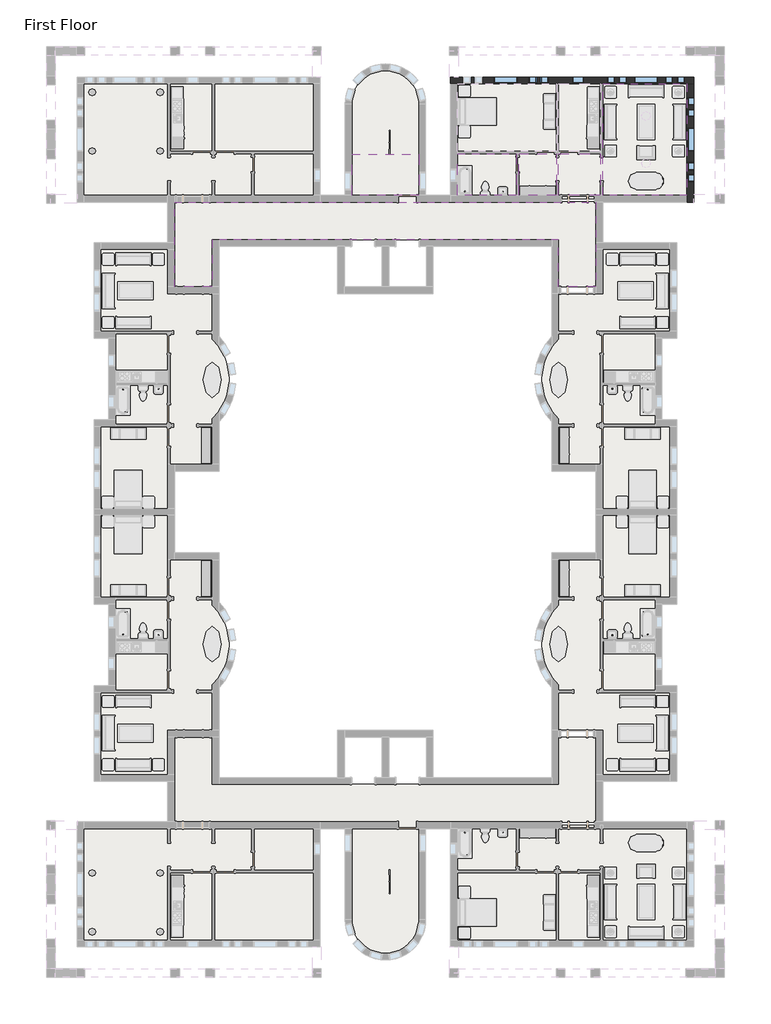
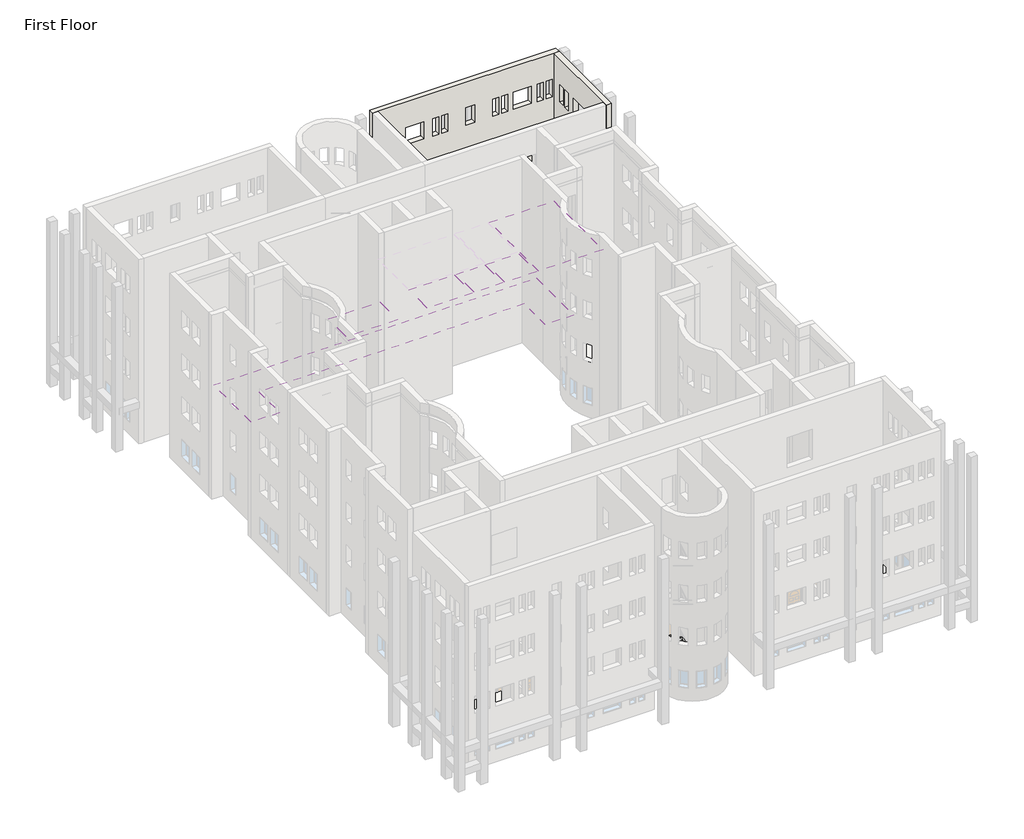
# One storey, part 18 of 24: 14 windows, 10 slabs, 6 coverings, 2 walls.
"""IFC4 building model written with IfcOpenShell, lengths in millimetres."""

from ifc_helpers import new_model, si_unit, point, frame, frame_2d, origin, place, context, project, spatial, polyline, circle_curve, trimmed, segment, composite_curve, outline, extrude, faceted_brep, transform, mapped, element, save
from components import window_da97879f, window_d61ef850, window_60baf983, window_6eb97611

model = new_model("IFC4")

# Units and contexts
model_context = context("Model", 3, world=origin())
ifc_project = project(units=[si_unit("LENGTHUNIT", "METRE", prefix="MILLI")], contexts=[model_context])

# Site, building, storey
site = spatial("IfcSite", under=ifc_project)
building = spatial("IfcBuilding", under=site)
storey = spatial("IfcBuildingStorey", under=building, Name="First Floor", Elevation=0.0)

# Coverings
placement = place(None, origin())
element("IfcCovering", 1, ObjectType="GWB on Mtl. Stud", at=placement, inside=storey, context=model_context, shape_type="SweptSolid", body=[
    extrude(outline(polyline([(-3709.9589563, 4526.4441867), (-3709.9589563, 10270.0191867), (622.3285437, 10270.0191867), (622.3285437, 4526.4441867), (-3709.9589563, 4526.4441867)])), frame((0.0, 0.0, 2590.8), z_axis=(0.0, 0.0, 1.0), x_axis=(1.0, 0.0, 0.0)), (0.0, 0.0, 1.0), 107.95),
])
element("IfcCovering", 2, ObjectType="GWB on Mtl. Stud", at=placement, inside=storey, context=model_context, shape_type="SweptSolid", body=[
    extrude(outline(polyline([(-3836.9589563, 4526.4441867), (-5995.9589563, 4526.4441867), (-5995.9589563, 6660.0441867), (-3836.9589563, 6660.0441867), (-3836.9589563, 4526.4441867)])), frame((0.0, 0.0, 2590.8), z_axis=(0.0, 0.0, 1.0), x_axis=(1.0, 0.0, 0.0)), (0.0, 0.0, 1.0), 107.95),
])
element("IfcCovering", 3, ObjectType="GWB on Mtl. Stud", at=placement, inside=storey, context=model_context, shape_type="SweptSolid", body=[
    extrude(outline(polyline([(-6122.9589563, 4526.4441867), (-8042.2464563, 4526.4441867), (-8042.2464563, 6660.0441867), (-6122.9589563, 6660.0441867), (-6122.9589563, 4526.4441867)])), frame((0.0, 0.0, 2590.8), z_axis=(0.0, 0.0, 1.0), x_axis=(1.0, 0.0, 0.0)), (0.0, 0.0, 1.0), 107.95),
])
element("IfcCovering", 4, ObjectType="GWB on Mtl. Stud", at=placement, inside=storey, context=model_context, shape_type="SweptSolid", body=[
    extrude(outline(polyline([(-8169.2464563, 6660.0441867), (-8169.2464563, 4526.4441867), (-11217.2464563, 4526.4441867), (-11217.2464563, 6660.0441867), (-8169.2464563, 6660.0441867)])), frame((0.0, 0.0, 2590.8), z_axis=(0.0, 0.0, 1.0), x_axis=(1.0, 0.0, 0.0)), (0.0, 0.0, 1.0), 107.95),
])
element("IfcCovering", 5, ObjectType="GWB on Mtl. Stud", at=placement, inside=storey, context=model_context, shape_type="SweptSolid", body=[
    extrude(outline(polyline([(-13206.3839563, 4526.4441867), (-16663.9589563, 4526.4441867), (-16663.9589563, 6636.2316867), (-13206.3839563, 6636.2316867), (-13206.3839563, 4526.4441867)])), frame((0.0, 0.0, 2438.4), z_axis=(0.0, 0.0, 1.0), x_axis=(1.0, 0.0, 0.0)), (0.0, 0.0, 1.0), 107.95),
])
element("IfcCovering", 6, ObjectType="GWB on Mtl. Stud", at=placement, inside=storey, context=model_context, shape_type="SweptSolid", body=[
    extrude(outline(polyline([(-5995.9589563, -197.9558133), (-5995.9589563, 2240.4441867), (-23874.3839563, 2240.4441867), (-23874.3839563, -197.9558133), (-25807.9589563, -197.9558133), (-25807.9589563, 4174.0191867), (-4062.3839563, 4174.0191867), (-4062.3839563, -197.9558133), (-5995.9589563, -197.9558133)])), frame((0.0, 0.0, 2438.4), z_axis=(0.0, 0.0, 1.0), x_axis=(1.0, 0.0, 0.0)), (0.0, 0.0, 1.0), 107.95),
])

# Slabs
element("IfcSlab", 7, ObjectType="LW Concrete on Metal Deck", at=placement, inside=storey, context=model_context, shape_type="SweptSolid", body=[
    extrude(outline(polyline([(787.4285437, 10435.1191867), (787.4285437, 4361.3441867), (-11382.3464563, 4361.3441867), (-11382.3464563, 10435.1191867), (787.4285437, 10435.1191867)])), frame((0.0, 0.0, -104.775), z_axis=(0.0, 0.0, 1.0), x_axis=(1.0, 0.0, 0.0)), (0.0, 0.0, 1.0), 104.775),
])
element("IfcSlab", 8, ObjectType="LW Concrete on Metal Deck", at=placement, inside=storey, context=model_context, shape_type="SweptSolid", body=[
    extrude(outline(composite_curve([segment(polyline([(-13193.6839563, 9227.0316867), (-13193.6839563, 4186.7191867), (-4062.3839563, 4186.7191867), (-4062.3839563, -197.9558133), (-6008.6589563, -197.9558133), (-6008.6589563, 2227.7441867), (-23861.6839563, 2227.7441867), (-23861.6839563, -197.9558133), (-25807.9589563, -197.9558133), (-25807.9589563, 4186.7191867), (-16676.6589563, 4186.7191867), (-16676.6589563, 9227.0316867)]), True, "CONTINUOUS"), segment(trimmed(circle_curve(frame_2d((-14935.1714563, 9227.0316867)), 1741.4875), [point((-16676.6589563, 9227.0316867))], [point((-13193.6839563, 9227.0316867))], False, "CARTESIAN"), True, "CONTINUOUS")], self_intersect=False)), frame((0.0, 0.0, -104.775), z_axis=(0.0, 0.0, 1.0), x_axis=(1.0, 0.0, 0.0)), (0.0, 0.0, 1.0), 104.775),
])
element("IfcSlab", 9, ObjectType="LW Concrete on Metal Deck", at=placement, inside=storey, context=model_context, shape_type="SweptSolid", body=[
    extrude(outline(composite_curve([segment(polyline([(-239.6839563, -7395.6808133), (-239.6839563, -11640.6558133), (-3722.6589563, -11640.6558133), (-3722.6589563, -9354.6558133), (-6008.6589563, -9354.6558133), (-6008.6589563, -6994.1453152)]), True, "CONTINUOUS"), segment(trimmed(circle_curve(frame_2d((-3995.4640713, -4946.1683133)), 2871.7875), [point((-6008.6589563, -6994.1453152))], [point((-6008.6589563, -2898.1913115))], False, "CARTESIAN"), True, "CONTINUOUS"), segment(polyline([(-6008.6589563, -2898.1913115), (-6008.6589563, -537.6808133), (-3722.6589563, -537.6808133), (-3722.6589563, 1748.3191867), (-239.6839563, 1748.3191867), (-239.6839563, -2496.6558133), (-1001.6839563, -2496.6558133), (-1001.6839563, -7395.6808133), (-239.6839563, -7395.6808133)]), True, "CONTINUOUS")], self_intersect=False)), frame((0.0, 0.0, -104.775), z_axis=(0.0, 0.0, 1.0), x_axis=(1.0, 0.0, 0.0)), (0.0, 0.0, 1.0), 104.775),
])
element("IfcSlab", 10, ObjectType="LW Concrete on Metal Deck", at=placement, inside=storey, context=model_context, shape_type="SweptSolid", body=[
    extrude(outline(polyline([(-30657.7714563, 10435.1191867), (-18487.9964563, 10435.1191867), (-18487.9964563, 4361.3441867), (-30657.7714563, 4361.3441867), (-30657.7714563, 10435.1191867)])), frame((0.0, 0.0, -104.775), z_axis=(0.0, 0.0, 1.0), x_axis=(1.0, 0.0, 0.0)), (0.0, 0.0, 1.0), 104.775),
])
element("IfcSlab", 11, ObjectType="LW Concrete on Metal Deck", at=placement, inside=storey, context=model_context, shape_type="SweptSolid", body=[
    extrude(outline(composite_curve([segment(polyline([(-29630.6589563, -7395.6808133), (-28868.6589563, -7395.6808133), (-28868.6589563, -2496.6558133), (-29630.6589563, -2496.6558133), (-29630.6589563, 1748.3191867), (-26147.6839563, 1748.3191867), (-26147.6839563, -537.6808133), (-23861.6839563, -537.6808133), (-23861.6839563, -2898.1913115)]), True, "CONTINUOUS"), segment(trimmed(circle_curve(frame_2d((-25874.8788413, -4946.1683133)), 2871.7875), [point((-23861.6839563, -2898.1913115))], [point((-23861.6839563, -6994.1453152))], False, "CARTESIAN"), True, "CONTINUOUS"), segment(polyline([(-23861.6839563, -6994.1453152), (-23861.6839563, -9354.6558133), (-26147.6839563, -9354.6558133), (-26147.6839563, -11640.6558133), (-29630.6589563, -11640.6558133), (-29630.6589563, -7395.6808133)]), True, "CONTINUOUS")], self_intersect=False)), frame((0.0, 0.0, -104.775), z_axis=(0.0, 0.0, 1.0), x_axis=(1.0, 0.0, 0.0)), (0.0, 0.0, 1.0), 104.775),
])
element("IfcSlab", 12, ObjectType="LW Concrete on Metal Deck", at=placement, inside=storey, context=model_context, shape_type="SweptSolid", body=[
    extrude(outline(polyline([(787.4285437, -34043.4558133), (-11382.3464563, -34043.4558133), (-11382.3464563, -27969.6808133), (787.4285437, -27969.6808133), (787.4285437, -34043.4558133)])), frame((0.0, 0.0, -104.775), z_axis=(0.0, 0.0, 1.0), x_axis=(1.0, 0.0, 0.0)), (0.0, 0.0, 1.0), 104.775),
])
element("IfcSlab", 13, ObjectType="LW Concrete on Metal Deck", at=placement, inside=storey, context=model_context, shape_type="SweptSolid", body=[
    extrude(outline(composite_curve([segment(trimmed(circle_curve(frame_2d((-14935.1714563, -32835.3683133)), 1741.4875), [point((-13193.6839563, -32835.3683133))], [point((-16676.6589563, -32835.3683133))], False, "CARTESIAN"), True, "CONTINUOUS"), segment(polyline([(-16676.6589563, -32835.3683133), (-16676.6589563, -27795.0558133), (-25807.9589563, -27795.0558133), (-25807.9589563, -23410.3808133), (-23861.6839563, -23410.3808133), (-23861.6839563, -25836.0808133), (-6008.6589563, -25836.0808133), (-6008.6589563, -23410.3808133), (-4062.3839563, -23410.3808133), (-4062.3839563, -27795.0558133), (-13193.6839563, -27795.0558133), (-13193.6839563, -32835.3683133)]), True, "CONTINUOUS")], self_intersect=False)), frame((0.0, 0.0, -104.775), z_axis=(0.0, 0.0, 1.0), x_axis=(1.0, 0.0, 0.0)), (0.0, 0.0, 1.0), 104.775),
])
element("IfcSlab", 14, ObjectType="LW Concrete on Metal Deck", at=placement, inside=storey, context=model_context, shape_type="SweptSolid", body=[
    extrude(outline(composite_curve([segment(polyline([(-239.6839563, -16212.6558133), (-1001.6839563, -16212.6558133), (-1001.6839563, -21111.6808133), (-239.6839563, -21111.6808133), (-239.6839563, -25356.6558133), (-3722.6589563, -25356.6558133), (-3722.6589563, -23070.6558133), (-6008.6589563, -23070.6558133), (-6008.6589563, -20710.1453152)]), True, "CONTINUOUS"), segment(trimmed(circle_curve(frame_2d((-3995.4640713, -18662.1683133)), 2871.7875), [point((-6008.6589563, -20710.1453152))], [point((-6008.6589563, -16614.1913115))], False, "CARTESIAN"), True, "CONTINUOUS"), segment(polyline([(-6008.6589563, -16614.1913115), (-6008.6589563, -14253.6808133), (-3722.6589563, -14253.6808133), (-3722.6589563, -11967.6808133), (-239.6839563, -11967.6808133), (-239.6839563, -16212.6558133)]), True, "CONTINUOUS")], self_intersect=False)), frame((0.0, 0.0, -104.775), z_axis=(0.0, 0.0, 1.0), x_axis=(1.0, 0.0, 0.0)), (0.0, 0.0, 1.0), 104.775),
])
element("IfcSlab", 15, ObjectType="LW Concrete on Metal Deck", at=placement, inside=storey, context=model_context, shape_type="SweptSolid", body=[
    extrude(outline(polyline([(-30657.7714563, -34043.4558133), (-30657.7714563, -27969.6808133), (-18487.9964563, -27969.6808133), (-18487.9964563, -34043.4558133), (-30657.7714563, -34043.4558133)])), frame((0.0, 0.0, -104.775), z_axis=(0.0, 0.0, 1.0), x_axis=(1.0, 0.0, 0.0)), (0.0, 0.0, 1.0), 104.775),
])
element("IfcSlab", 16, ObjectType="LW Concrete on Metal Deck", at=placement, inside=storey, context=model_context, shape_type="SweptSolid", body=[
    extrude(outline(composite_curve([segment(polyline([(-29630.6589563, -16212.6558133), (-29630.6589563, -11967.6808133), (-26147.6839563, -11967.6808133), (-26147.6839563, -14253.6808133), (-23861.6839563, -14253.6808133), (-23861.6839563, -16614.1913115)]), True, "CONTINUOUS"), segment(trimmed(circle_curve(frame_2d((-25874.8788413, -18662.1683133)), 2871.7875), [point((-23861.6839563, -16614.1913115))], [point((-23861.6839563, -20710.1453152))], False, "CARTESIAN"), True, "CONTINUOUS"), segment(polyline([(-23861.6839563, -20710.1453152), (-23861.6839563, -23070.6558133), (-26147.6839563, -23070.6558133), (-26147.6839563, -25356.6558133), (-29630.6589563, -25356.6558133), (-29630.6589563, -21111.6808133), (-28868.6589563, -21111.6808133), (-28868.6589563, -16212.6558133), (-29630.6589563, -16212.6558133)]), True, "CONTINUOUS")], self_intersect=False)), frame((0.0, 0.0, -104.775), z_axis=(0.0, 0.0, 1.0), x_axis=(1.0, 0.0, 0.0)), (0.0, 0.0, 1.0), 104.775),
])

# Walls
element("IfcWall", 17, ObjectType="Exterior - Brick on Mtl. Stud", at=placement, inside=storey, context=model_context, shape_type="Brep", body=[
    faceted_brep([(-11569.6714563, 10270.0191867, 13106.4), (-11217.2464563, 10270.0191867, 13106.4), (622.3285437, 10270.0191867, 13106.4), (974.7535437, 10270.0191867, 13106.4), (974.7535437, 10622.4441867, 13106.4), (-11569.6714563, 10622.4441867, 13106.4), (-11569.6714563, 10270.0191867, 0.0), (-11382.3464563, 10270.0191867, 0.0), (-11217.2464563, 10270.0191867, 0.0), (-6122.9589563, 10270.0191867, 0.0), (-5995.9589563, 10270.0191867, 0.0), (-3836.9589563, 10270.0191867, 0.0), (-3709.9589563, 10270.0191867, 0.0), (622.3285437, 10270.0191867, 0.0), (787.4285437, 10270.0191867, 0.0), (974.7535437, 10270.0191867, 0.0), (-90.4589563, 10270.0191867, 8229.6), (-90.4589563, 10270.0191867, 7010.4), (-496.8589563, 10270.0191867, 7010.4), (-496.8589563, 10270.0191867, 8229.6), (519.1410437, 10270.0191867, 8229.6), (519.1410437, 10270.0191867, 7010.4), (112.7410437, 10270.0191867, 7010.4), (112.7410437, 10270.0191867, 8229.6), (-2884.4589563, 10270.0191867, 8229.6), (-2478.0589563, 10270.0191867, 8229.6), (-2478.0589563, 10270.0191867, 7010.4), (-2884.4589563, 10270.0191867, 7010.4), (-3494.0589563, 10270.0191867, 8229.6), (-3087.6589563, 10270.0191867, 8229.6), (-3087.6589563, 10270.0191867, 7010.4), (-3494.0589563, 10270.0191867, 7010.4), (-7126.2589563, 10270.0191867, 8229.6), (-7126.2589563, 10270.0191867, 7010.4), (-7532.6589563, 10270.0191867, 7010.4), (-7532.6589563, 10270.0191867, 8229.6), (-6516.6589563, 10270.0191867, 8229.6), (-6516.6589563, 10270.0191867, 7010.4), (-6923.0589563, 10270.0191867, 7010.4), (-6923.0589563, 10270.0191867, 8229.6), (-10326.6589563, 10270.0191867, 8229.6), (-9920.2589563, 10270.0191867, 8229.6), (-9920.2589563, 10270.0191867, 7010.4), (-10326.6589563, 10270.0191867, 7010.4), (-10936.2589563, 10270.0191867, 8229.6), (-10529.8589563, 10270.0191867, 8229.6), (-10529.8589563, 10270.0191867, 7010.4), (-10936.2589563, 10270.0191867, 7010.4), (-2097.0589563, 10270.0191867, 8229.6), (-877.8589563, 10270.0191867, 8229.6), (-877.8589563, 10270.0191867, 7010.4), (-2097.0589563, 10270.0191867, 7010.4), (-9336.0589563, 10270.0191867, 8229.6), (-8116.8589563, 10270.0191867, 8229.6), (-8116.8589563, 10270.0191867, 7010.4), (-9336.0589563, 10270.0191867, 7010.4), (-5297.4589563, 10270.0191867, 8229.6), (-4687.8589563, 10270.0191867, 8229.6), (-4687.8589563, 10270.0191867, 7010.4), (-5297.4589563, 10270.0191867, 7010.4), (-90.4589563, 10270.0191867, 5181.6), (-90.4589563, 10270.0191867, 3962.4), (-496.8589563, 10270.0191867, 3962.4), (-496.8589563, 10270.0191867, 5181.6), (519.1410437, 10270.0191867, 5181.6), (519.1410437, 10270.0191867, 3962.4), (112.7410437, 10270.0191867, 3962.4), (112.7410437, 10270.0191867, 5181.6), (-2884.4589563, 10270.0191867, 5181.6), (-2478.0589563, 10270.0191867, 5181.6), (-2478.0589563, 10270.0191867, 3962.4), (-2884.4589563, 10270.0191867, 3962.4), (-3494.0589563, 10270.0191867, 5181.6), (-3087.6589563, 10270.0191867, 5181.6), (-3087.6589563, 10270.0191867, 3962.4), (-3494.0589563, 10270.0191867, 3962.4), (-7126.2589563, 10270.0191867, 5181.6), (-7126.2589563, 10270.0191867, 3962.4), (-7532.6589563, 10270.0191867, 3962.4), (-7532.6589563, 10270.0191867, 5181.6), (-6516.6589563, 10270.0191867, 5181.6), (-6516.6589563, 10270.0191867, 3962.4), (-6923.0589563, 10270.0191867, 3962.4), (-6923.0589563, 10270.0191867, 5181.6), (-10326.6589563, 10270.0191867, 5181.6), (-9920.2589563, 10270.0191867, 5181.6), (-9920.2589563, 10270.0191867, 3962.4), (-10326.6589563, 10270.0191867, 3962.4), (-10936.2589563, 10270.0191867, 5181.6), (-10529.8589563, 10270.0191867, 5181.6), (-10529.8589563, 10270.0191867, 3962.4), (-10936.2589563, 10270.0191867, 3962.4), (-2097.0589563, 10270.0191867, 5181.6), (-877.8589563, 10270.0191867, 5181.6), (-877.8589563, 10270.0191867, 3962.4), (-2097.0589563, 10270.0191867, 3962.4), (-9336.0589563, 10270.0191867, 5181.6), (-8116.8589563, 10270.0191867, 5181.6), (-8116.8589563, 10270.0191867, 3962.4), (-9336.0589563, 10270.0191867, 3962.4), (-5297.4589563, 10270.0191867, 5181.6), (-4687.8589563, 10270.0191867, 5181.6), (-4687.8589563, 10270.0191867, 3962.4), (-5297.4589563, 10270.0191867, 3962.4), (-90.4589563, 10270.0191867, 11277.6), (-90.4589563, 10270.0191867, 10058.4), (-496.8589563, 10270.0191867, 10058.4), (-496.8589563, 10270.0191867, 11277.6), (519.1410437, 10270.0191867, 11277.6), (519.1410437, 10270.0191867, 10058.4), (112.7410437, 10270.0191867, 10058.4), (112.7410437, 10270.0191867, 11277.6), (-2884.4589563, 10270.0191867, 11277.6), (-2478.0589563, 10270.0191867, 11277.6), (-2478.0589563, 10270.0191867, 10058.4), (-2884.4589563, 10270.0191867, 10058.4), (-3494.0589563, 10270.0191867, 11277.6), (-3087.6589563, 10270.0191867, 11277.6), (-3087.6589563, 10270.0191867, 10058.4), (-3494.0589563, 10270.0191867, 10058.4), (-7126.2589563, 10270.0191867, 11277.6), (-7126.2589563, 10270.0191867, 10058.4), (-7532.6589563, 10270.0191867, 10058.4), (-7532.6589563, 10270.0191867, 11277.6), (-6516.6589563, 10270.0191867, 11277.6), (-6516.6589563, 10270.0191867, 10058.4), (-6923.0589563, 10270.0191867, 10058.4), (-6923.0589563, 10270.0191867, 11277.6), (-10326.6589563, 10270.0191867, 11277.6), (-9920.2589563, 10270.0191867, 11277.6), (-9920.2589563, 10270.0191867, 10058.4), (-10326.6589563, 10270.0191867, 10058.4), (-10936.2589563, 10270.0191867, 11277.6), (-10529.8589563, 10270.0191867, 11277.6), (-10529.8589563, 10270.0191867, 10058.4), (-10936.2589563, 10270.0191867, 10058.4), (-2097.0589563, 10270.0191867, 11277.6), (-877.8589563, 10270.0191867, 11277.6), (-877.8589563, 10270.0191867, 10058.4), (-2097.0589563, 10270.0191867, 10058.4), (-9336.0589563, 10270.0191867, 11277.6), (-8116.8589563, 10270.0191867, 11277.6), (-8116.8589563, 10270.0191867, 10058.4), (-9336.0589563, 10270.0191867, 10058.4), (-5297.4589563, 10270.0191867, 11277.6), (-4687.8589563, 10270.0191867, 11277.6), (-4687.8589563, 10270.0191867, 10058.4), (-5297.4589563, 10270.0191867, 10058.4), (-90.4589563, 10270.0191867, 2133.6), (-90.4589563, 10270.0191867, 914.4), (-496.8589563, 10270.0191867, 914.4), (-496.8589563, 10270.0191867, 2133.6), (519.1410437, 10270.0191867, 2133.6), (519.1410437, 10270.0191867, 914.4), (112.7410437, 10270.0191867, 914.4), (112.7410437, 10270.0191867, 2133.6), (-2884.4589563, 10270.0191867, 2133.6), (-2478.0589563, 10270.0191867, 2133.6), (-2478.0589563, 10270.0191867, 914.4), (-2884.4589563, 10270.0191867, 914.4), (-3494.0589563, 10270.0191867, 2133.6), (-3087.6589563, 10270.0191867, 2133.6), (-3087.6589563, 10270.0191867, 914.4), (-3494.0589563, 10270.0191867, 914.4), (-7126.2589563, 10270.0191867, 2133.6), (-7126.2589563, 10270.0191867, 914.4), (-7532.6589563, 10270.0191867, 914.4), (-7532.6589563, 10270.0191867, 2133.6), (-6516.6589563, 10270.0191867, 2133.6), (-6516.6589563, 10270.0191867, 914.4), (-6923.0589563, 10270.0191867, 914.4), (-6923.0589563, 10270.0191867, 2133.6), (-10326.6589563, 10270.0191867, 2133.6), (-9920.2589563, 10270.0191867, 2133.6), (-9920.2589563, 10270.0191867, 914.4), (-10326.6589563, 10270.0191867, 914.4), (-10936.2589563, 10270.0191867, 2133.6), (-10529.8589563, 10270.0191867, 2133.6), (-10529.8589563, 10270.0191867, 914.4), (-10936.2589563, 10270.0191867, 914.4), (-2097.0589563, 10270.0191867, 2133.6), (-877.8589563, 10270.0191867, 2133.6), (-877.8589563, 10270.0191867, 914.4), (-2097.0589563, 10270.0191867, 914.4), (-9336.0589563, 10270.0191867, 2133.6), (-8116.8589563, 10270.0191867, 2133.6), (-8116.8589563, 10270.0191867, 914.4), (-9336.0589563, 10270.0191867, 914.4), (-5297.4589563, 10270.0191867, 2133.6), (-4687.8589563, 10270.0191867, 2133.6), (-4687.8589563, 10270.0191867, 914.4), (-5297.4589563, 10270.0191867, 914.4), (-11569.6714563, 10622.4441867, 0.0), (974.7535437, 10622.4441867, 0.0), (787.4285437, 10622.4441867, 0.0), (-11382.3464563, 10622.4441867, 0.0), (-90.4589563, 10622.4441867, 8229.6), (-496.8589563, 10622.4441867, 8229.6), (-496.8589563, 10622.4441867, 7010.4), (-90.4589563, 10622.4441867, 7010.4), (519.1410437, 10622.4441867, 8229.6), (112.7410437, 10622.4441867, 8229.6), (112.7410437, 10622.4441867, 7010.4), (519.1410437, 10622.4441867, 7010.4), (-2884.4589563, 10622.4441867, 8229.6), (-2884.4589563, 10622.4441867, 7010.4), (-2478.0589563, 10622.4441867, 7010.4), (-2478.0589563, 10622.4441867, 8229.6), (-3494.0589563, 10622.4441867, 8229.6), (-3494.0589563, 10622.4441867, 7010.4), (-3087.6589563, 10622.4441867, 7010.4), (-3087.6589563, 10622.4441867, 8229.6), (-7126.2589563, 10622.4441867, 8229.6), (-7532.6589563, 10622.4441867, 8229.6), (-7532.6589563, 10622.4441867, 7010.4), (-7126.2589563, 10622.4441867, 7010.4), (-6516.6589563, 10622.4441867, 8229.6), (-6923.0589563, 10622.4441867, 8229.6), (-6923.0589563, 10622.4441867, 7010.4), (-6516.6589563, 10622.4441867, 7010.4), (-10326.6589563, 10622.4441867, 8229.6), (-10326.6589563, 10622.4441867, 7010.4), (-9920.2589563, 10622.4441867, 7010.4), (-9920.2589563, 10622.4441867, 8229.6), (-10936.2589563, 10622.4441867, 8229.6), (-10936.2589563, 10622.4441867, 7010.4), (-10529.8589563, 10622.4441867, 7010.4), (-10529.8589563, 10622.4441867, 8229.6), (-2097.0589563, 10622.4441867, 8229.6), (-2097.0589563, 10622.4441867, 7010.4), (-877.8589563, 10622.4441867, 7010.4), (-877.8589563, 10622.4441867, 8229.6), (-9336.0589563, 10622.4441867, 8229.6), (-9336.0589563, 10622.4441867, 7010.4), (-8116.8589563, 10622.4441867, 7010.4), (-8116.8589563, 10622.4441867, 8229.6), (-5297.4589563, 10622.4441867, 8229.6), (-5297.4589563, 10622.4441867, 7010.4), (-4687.8589563, 10622.4441867, 7010.4), (-4687.8589563, 10622.4441867, 8229.6), (-90.4589563, 10622.4441867, 5181.6), (-496.8589563, 10622.4441867, 5181.6), (-496.8589563, 10622.4441867, 3962.4), (-90.4589563, 10622.4441867, 3962.4), (519.1410437, 10622.4441867, 5181.6), (112.7410437, 10622.4441867, 5181.6), (112.7410437, 10622.4441867, 3962.4), (519.1410437, 10622.4441867, 3962.4), (-2884.4589563, 10622.4441867, 5181.6), (-2884.4589563, 10622.4441867, 3962.4), (-2478.0589563, 10622.4441867, 3962.4), (-2478.0589563, 10622.4441867, 5181.6), (-3494.0589563, 10622.4441867, 5181.6), (-3494.0589563, 10622.4441867, 3962.4), (-3087.6589563, 10622.4441867, 3962.4), (-3087.6589563, 10622.4441867, 5181.6), (-7126.2589563, 10622.4441867, 5181.6), (-7532.6589563, 10622.4441867, 5181.6), (-7532.6589563, 10622.4441867, 3962.4), (-7126.2589563, 10622.4441867, 3962.4), (-6516.6589563, 10622.4441867, 5181.6), (-6923.0589563, 10622.4441867, 5181.6), (-6923.0589563, 10622.4441867, 3962.4), (-6516.6589563, 10622.4441867, 3962.4), (-10326.6589563, 10622.4441867, 5181.6), (-10326.6589563, 10622.4441867, 3962.4), (-9920.2589563, 10622.4441867, 3962.4), (-9920.2589563, 10622.4441867, 5181.6), (-10936.2589563, 10622.4441867, 5181.6), (-10936.2589563, 10622.4441867, 3962.4), (-10529.8589563, 10622.4441867, 3962.4), (-10529.8589563, 10622.4441867, 5181.6), (-2097.0589563, 10622.4441867, 5181.6), (-2097.0589563, 10622.4441867, 3962.4), (-877.8589563, 10622.4441867, 3962.4), (-877.8589563, 10622.4441867, 5181.6), (-9336.0589563, 10622.4441867, 5181.6), (-9336.0589563, 10622.4441867, 3962.4), (-8116.8589563, 10622.4441867, 3962.4), (-8116.8589563, 10622.4441867, 5181.6), (-5297.4589563, 10622.4441867, 5181.6), (-5297.4589563, 10622.4441867, 3962.4), (-4687.8589563, 10622.4441867, 3962.4), (-4687.8589563, 10622.4441867, 5181.6), (-90.4589563, 10622.4441867, 11277.6), (-496.8589563, 10622.4441867, 11277.6), (-496.8589563, 10622.4441867, 10058.4), (-90.4589563, 10622.4441867, 10058.4), (519.1410437, 10622.4441867, 11277.6), (112.7410437, 10622.4441867, 11277.6), (112.7410437, 10622.4441867, 10058.4), (519.1410437, 10622.4441867, 10058.4), (-2884.4589563, 10622.4441867, 11277.6), (-2884.4589563, 10622.4441867, 10058.4), (-2478.0589563, 10622.4441867, 10058.4), (-2478.0589563, 10622.4441867, 11277.6), (-3494.0589563, 10622.4441867, 11277.6), (-3494.0589563, 10622.4441867, 10058.4), (-3087.6589563, 10622.4441867, 10058.4), (-3087.6589563, 10622.4441867, 11277.6), (-7126.2589563, 10622.4441867, 11277.6), (-7532.6589563, 10622.4441867, 11277.6), (-7532.6589563, 10622.4441867, 10058.4), (-7126.2589563, 10622.4441867, 10058.4), (-6516.6589563, 10622.4441867, 11277.6), (-6923.0589563, 10622.4441867, 11277.6), (-6923.0589563, 10622.4441867, 10058.4), (-6516.6589563, 10622.4441867, 10058.4), (-10326.6589563, 10622.4441867, 11277.6), (-10326.6589563, 10622.4441867, 10058.4), (-9920.2589563, 10622.4441867, 10058.4), (-9920.2589563, 10622.4441867, 11277.6), (-10936.2589563, 10622.4441867, 11277.6), (-10936.2589563, 10622.4441867, 10058.4), (-10529.8589563, 10622.4441867, 10058.4), (-10529.8589563, 10622.4441867, 11277.6), (-2097.0589563, 10622.4441867, 11277.6), (-2097.0589563, 10622.4441867, 10058.4), (-877.8589563, 10622.4441867, 10058.4), (-877.8589563, 10622.4441867, 11277.6), (-9336.0589563, 10622.4441867, 11277.6), (-9336.0589563, 10622.4441867, 10058.4), (-8116.8589563, 10622.4441867, 10058.4), (-8116.8589563, 10622.4441867, 11277.6), (-5297.4589563, 10622.4441867, 11277.6), (-5297.4589563, 10622.4441867, 10058.4), (-4687.8589563, 10622.4441867, 10058.4), (-4687.8589563, 10622.4441867, 11277.6), (-90.4589563, 10622.4441867, 2133.6), (-496.8589563, 10622.4441867, 2133.6), (-496.8589563, 10622.4441867, 914.4), (-90.4589563, 10622.4441867, 914.4), (519.1410437, 10622.4441867, 2133.6), (112.7410437, 10622.4441867, 2133.6), (112.7410437, 10622.4441867, 914.4), (519.1410437, 10622.4441867, 914.4), (-2884.4589563, 10622.4441867, 2133.6), (-2884.4589563, 10622.4441867, 914.4), (-2478.0589563, 10622.4441867, 914.4), (-2478.0589563, 10622.4441867, 2133.6), (-3494.0589563, 10622.4441867, 2133.6), (-3494.0589563, 10622.4441867, 914.4), (-3087.6589563, 10622.4441867, 914.4), (-3087.6589563, 10622.4441867, 2133.6), (-7126.2589563, 10622.4441867, 2133.6), (-7532.6589563, 10622.4441867, 2133.6), (-7532.6589563, 10622.4441867, 914.4), (-7126.2589563, 10622.4441867, 914.4), (-6516.6589563, 10622.4441867, 2133.6), (-6923.0589563, 10622.4441867, 2133.6), (-6923.0589563, 10622.4441867, 914.4), (-6516.6589563, 10622.4441867, 914.4), (-10326.6589563, 10622.4441867, 2133.6), (-10326.6589563, 10622.4441867, 914.4), (-9920.2589563, 10622.4441867, 914.4), (-9920.2589563, 10622.4441867, 2133.6), (-10936.2589563, 10622.4441867, 2133.6), (-10936.2589563, 10622.4441867, 914.4), (-10529.8589563, 10622.4441867, 914.4), (-10529.8589563, 10622.4441867, 2133.6), (-2097.0589563, 10622.4441867, 2133.6), (-2097.0589563, 10622.4441867, 914.4), (-877.8589563, 10622.4441867, 914.4), (-877.8589563, 10622.4441867, 2133.6), (-9336.0589563, 10622.4441867, 2133.6), (-9336.0589563, 10622.4441867, 914.4), (-8116.8589563, 10622.4441867, 914.4), (-8116.8589563, 10622.4441867, 2133.6), (-5297.4589563, 10622.4441867, 2133.6), (-5297.4589563, 10622.4441867, 914.4), (-4687.8589563, 10622.4441867, 914.4), (-4687.8589563, 10622.4441867, 2133.6), (974.7535437, 10435.1191867, 0.0), (-11569.6714563, 10435.1191867, 0.0), (-11382.3464563, 10435.1191867, 0.0), (787.4285437, 10435.1191867, 0.0)], [[[0, 1, 2, 3, 4, 5]], [[6, 7, 8, 9, 10, 11, 12, 13, 14, 15, 3, 2, 1, 0], [16, 17, 18, 19], [20, 21, 22, 23], [24, 25, 26, 27], [28, 29, 30, 31], [32, 33, 34, 35], [36, 37, 38, 39], [40, 41, 42, 43], [44, 45, 46, 47], [48, 49, 50, 51], [52, 53, 54, 55], [56, 57, 58, 59], [60, 61, 62, 63], [64, 65, 66, 67], [68, 69, 70, 71], [72, 73, 74, 75], [76, 77, 78, 79], [80, 81, 82, 83], [84, 85, 86, 87], [88, 89, 90, 91], [92, 93, 94, 95], [96, 97, 98, 99], [100, 101, 102, 103], [104, 105, 106, 107], [108, 109, 110, 111], [112, 113, 114, 115], [116, 117, 118, 119], [120, 121, 122, 123], [124, 125, 126, 127], [128, 129, 130, 131], [132, 133, 134, 135], [136, 137, 138, 139], [140, 141, 142, 143], [144, 145, 146, 147], [148, 149, 150, 151], [152, 153, 154, 155], [156, 157, 158, 159], [160, 161, 162, 163], [164, 165, 166, 167], [168, 169, 170, 171], [172, 173, 174, 175], [176, 177, 178, 179], [180, 181, 182, 183], [184, 185, 186, 187], [188, 189, 190, 191]], [[192, 5, 4, 193, 194, 195], [196, 197, 198, 199], [200, 201, 202, 203], [204, 205, 206, 207], [208, 209, 210, 211], [212, 213, 214, 215], [216, 217, 218, 219], [220, 221, 222, 223], [224, 225, 226, 227], [228, 229, 230, 231], [232, 233, 234, 235], [236, 237, 238, 239], [240, 241, 242, 243], [244, 245, 246, 247], [248, 249, 250, 251], [252, 253, 254, 255], [256, 257, 258, 259], [260, 261, 262, 263], [264, 265, 266, 267], [268, 269, 270, 271], [272, 273, 274, 275], [276, 277, 278, 279], [280, 281, 282, 283], [284, 285, 286, 287], [288, 289, 290, 291], [292, 293, 294, 295], [296, 297, 298, 299], [300, 301, 302, 303], [304, 305, 306, 307], [308, 309, 310, 311], [312, 313, 314, 315], [316, 317, 318, 319], [320, 321, 322, 323], [324, 325, 326, 327], [328, 329, 330, 331], [332, 333, 334, 335], [336, 337, 338, 339], [340, 341, 342, 343], [344, 345, 346, 347], [348, 349, 350, 351], [352, 353, 354, 355], [356, 357, 358, 359], [360, 361, 362, 363], [364, 365, 366, 367], [368, 369, 370, 371]], [[3, 15, 372, 193, 4]], [[6, 0, 5, 192, 373]], [[7, 6, 373, 374]], [[373, 192, 195, 374]], [[15, 14, 375, 372]], [[195, 194, 375, 374]], [[194, 193, 372, 375]], [[14, 13, 12, 11, 10, 9, 8, 7, 374, 375]], [[17, 16, 196, 199]], [[18, 17, 199, 198]], [[19, 18, 198, 197]], [[16, 19, 197, 196]], [[21, 20, 200, 203]], [[22, 21, 203, 202]], [[23, 22, 202, 201]], [[20, 23, 201, 200]], [[205, 204, 24, 27]], [[206, 205, 27, 26]], [[207, 206, 26, 25]], [[204, 207, 25, 24]], [[209, 208, 28, 31]], [[210, 209, 31, 30]], [[211, 210, 30, 29]], [[208, 211, 29, 28]], [[33, 32, 212, 215]], [[34, 33, 215, 214]], [[35, 34, 214, 213]], [[32, 35, 213, 212]], [[37, 36, 216, 219]], [[38, 37, 219, 218]], [[39, 38, 218, 217]], [[36, 39, 217, 216]], [[221, 220, 40, 43]], [[222, 221, 43, 42]], [[223, 222, 42, 41]], [[220, 223, 41, 40]], [[225, 224, 44, 47]], [[226, 225, 47, 46]], [[227, 226, 46, 45]], [[224, 227, 45, 44]], [[229, 228, 48, 51]], [[230, 229, 51, 50]], [[231, 230, 50, 49]], [[228, 231, 49, 48]], [[233, 232, 52, 55]], [[234, 233, 55, 54]], [[235, 234, 54, 53]], [[232, 235, 53, 52]], [[237, 236, 56, 59]], [[238, 237, 59, 58]], [[239, 238, 58, 57]], [[236, 239, 57, 56]], [[61, 60, 240, 243]], [[62, 61, 243, 242]], [[63, 62, 242, 241]], [[60, 63, 241, 240]], [[65, 64, 244, 247]], [[66, 65, 247, 246]], [[67, 66, 246, 245]], [[64, 67, 245, 244]], [[249, 248, 68, 71]], [[250, 249, 71, 70]], [[251, 250, 70, 69]], [[248, 251, 69, 68]], [[253, 252, 72, 75]], [[254, 253, 75, 74]], [[255, 254, 74, 73]], [[252, 255, 73, 72]], [[77, 76, 256, 259]], [[78, 77, 259, 258]], [[79, 78, 258, 257]], [[76, 79, 257, 256]], [[81, 80, 260, 263]], [[82, 81, 263, 262]], [[83, 82, 262, 261]], [[80, 83, 261, 260]], [[265, 264, 84, 87]], [[266, 265, 87, 86]], [[267, 266, 86, 85]], [[264, 267, 85, 84]], [[269, 268, 88, 91]], [[270, 269, 91, 90]], [[271, 270, 90, 89]], [[268, 271, 89, 88]], [[273, 272, 92, 95]], [[274, 273, 95, 94]], [[275, 274, 94, 93]], [[272, 275, 93, 92]], [[277, 276, 96, 99]], [[278, 277, 99, 98]], [[279, 278, 98, 97]], [[276, 279, 97, 96]], [[281, 280, 100, 103]], [[282, 281, 103, 102]], [[283, 282, 102, 101]], [[280, 283, 101, 100]], [[105, 104, 284, 287]], [[106, 105, 287, 286]], [[107, 106, 286, 285]], [[104, 107, 285, 284]], [[109, 108, 288, 291]], [[110, 109, 291, 290]], [[111, 110, 290, 289]], [[108, 111, 289, 288]], [[293, 292, 112, 115]], [[294, 293, 115, 114]], [[295, 294, 114, 113]], [[292, 295, 113, 112]], [[297, 296, 116, 119]], [[298, 297, 119, 118]], [[299, 298, 118, 117]], [[296, 299, 117, 116]], [[121, 120, 300, 303]], [[122, 121, 303, 302]], [[123, 122, 302, 301]], [[120, 123, 301, 300]], [[125, 124, 304, 307]], [[126, 125, 307, 306]], [[127, 126, 306, 305]], [[124, 127, 305, 304]], [[309, 308, 128, 131]], [[310, 309, 131, 130]], [[311, 310, 130, 129]], [[308, 311, 129, 128]], [[313, 312, 132, 135]], [[314, 313, 135, 134]], [[315, 314, 134, 133]], [[312, 315, 133, 132]], [[317, 316, 136, 139]], [[318, 317, 139, 138]], [[319, 318, 138, 137]], [[316, 319, 137, 136]], [[321, 320, 140, 143]], [[322, 321, 143, 142]], [[323, 322, 142, 141]], [[320, 323, 141, 140]], [[325, 324, 144, 147]], [[326, 325, 147, 146]], [[327, 326, 146, 145]], [[324, 327, 145, 144]], [[149, 148, 328, 331]], [[150, 149, 331, 330]], [[151, 150, 330, 329]], [[148, 151, 329, 328]], [[153, 152, 332, 335]], [[154, 153, 335, 334]], [[155, 154, 334, 333]], [[152, 155, 333, 332]], [[337, 336, 156, 159]], [[338, 337, 159, 158]], [[339, 338, 158, 157]], [[336, 339, 157, 156]], [[341, 340, 160, 163]], [[342, 341, 163, 162]], [[343, 342, 162, 161]], [[340, 343, 161, 160]], [[165, 164, 344, 347]], [[166, 165, 347, 346]], [[167, 166, 346, 345]], [[164, 167, 345, 344]], [[169, 168, 348, 351]], [[170, 169, 351, 350]], [[171, 170, 350, 349]], [[168, 171, 349, 348]], [[353, 352, 172, 175]], [[354, 353, 175, 174]], [[355, 354, 174, 173]], [[352, 355, 173, 172]], [[357, 356, 176, 179]], [[358, 357, 179, 178]], [[359, 358, 178, 177]], [[356, 359, 177, 176]], [[361, 360, 180, 183]], [[362, 361, 183, 182]], [[363, 362, 182, 181]], [[360, 363, 181, 180]], [[365, 364, 184, 187]], [[366, 365, 187, 186]], [[367, 366, 186, 185]], [[364, 367, 185, 184]], [[369, 368, 188, 191]], [[370, 369, 191, 190]], [[371, 370, 190, 189]], [[368, 371, 189, 188]]]),
])
element("IfcWall", 18, ObjectType="Exterior - Brick on Mtl. Stud", at=placement, inside=storey, context=model_context, shape_type="Brep", body=[
    faceted_brep([(622.3285437, 10270.0191867, 13106.4), (622.3285437, 4526.4441867, 13106.4), (622.3285437, 4174.0191867, 13106.4), (974.7535437, 4174.0191867, 13106.4), (974.7535437, 10270.0191867, 13106.4), (622.3285437, 10270.0191867, 0.0), (622.3285437, 4526.4441867, 0.0), (622.3285437, 4361.3441867, 0.0), (622.3285437, 4174.0191867, 0.0), (622.3285437, 5823.4316867, 8229.6), (622.3285437, 5823.4316867, 7010.4), (622.3285437, 6229.8316867, 7010.4), (622.3285437, 6229.8316867, 8229.6), (622.3285437, 5213.8316867, 8229.6), (622.3285437, 5213.8316867, 7010.4), (622.3285437, 5620.2316867, 7010.4), (622.3285437, 5620.2316867, 8229.6), (622.3285437, 8973.0316867, 8229.6), (622.3285437, 8566.6316867, 8229.6), (622.3285437, 8566.6316867, 7010.4), (622.3285437, 8973.0316867, 7010.4), (622.3285437, 9582.6316867, 8229.6), (622.3285437, 9176.2316867, 8229.6), (622.3285437, 9176.2316867, 7010.4), (622.3285437, 9582.6316867, 7010.4), (622.3285437, 8007.8316867, 8229.6), (622.3285437, 6788.6316867, 8229.6), (622.3285437, 6788.6316867, 7010.4), (622.3285437, 8007.8316867, 7010.4), (622.3285437, 5823.4316867, 5181.6), (622.3285437, 5823.4316867, 3962.4), (622.3285437, 6229.8316867, 3962.4), (622.3285437, 6229.8316867, 5181.6), (622.3285437, 5213.8316867, 5181.6), (622.3285437, 5213.8316867, 3962.4), (622.3285437, 5620.2316867, 3962.4), (622.3285437, 5620.2316867, 5181.6), (622.3285437, 8973.0316867, 5181.6), (622.3285437, 8566.6316867, 5181.6), (622.3285437, 8566.6316867, 3962.4), (622.3285437, 8973.0316867, 3962.4), (622.3285437, 9582.6316867, 5181.6), (622.3285437, 9176.2316867, 5181.6), (622.3285437, 9176.2316867, 3962.4), (622.3285437, 9582.6316867, 3962.4), (622.3285437, 8007.8316867, 5181.6), (622.3285437, 6788.6316867, 5181.6), (622.3285437, 6788.6316867, 3962.4), (622.3285437, 8007.8316867, 3962.4), (622.3285437, 5823.4316867, 11277.6), (622.3285437, 5823.4316867, 10058.4), (622.3285437, 6229.8316867, 10058.4), (622.3285437, 6229.8316867, 11277.6), (622.3285437, 5213.8316867, 11277.6), (622.3285437, 5213.8316867, 10058.4), (622.3285437, 5620.2316867, 10058.4), (622.3285437, 5620.2316867, 11277.6), (622.3285437, 8973.0316867, 11277.6), (622.3285437, 8566.6316867, 11277.6), (622.3285437, 8566.6316867, 10058.4), (622.3285437, 8973.0316867, 10058.4), (622.3285437, 9582.6316867, 11277.6), (622.3285437, 9176.2316867, 11277.6), (622.3285437, 9176.2316867, 10058.4), (622.3285437, 9582.6316867, 10058.4), (622.3285437, 8007.8316867, 11277.6), (622.3285437, 6788.6316867, 11277.6), (622.3285437, 6788.6316867, 10058.4), (622.3285437, 8007.8316867, 10058.4), (622.3285437, 5823.4316867, 2133.6), (622.3285437, 5823.4316867, 914.4), (622.3285437, 6229.8316867, 914.4), (622.3285437, 6229.8316867, 2133.6), (622.3285437, 5213.8316867, 2133.6), (622.3285437, 5213.8316867, 914.4), (622.3285437, 5620.2316867, 914.4), (622.3285437, 5620.2316867, 2133.6), (622.3285437, 8973.0316867, 2133.6), (622.3285437, 8566.6316867, 2133.6), (622.3285437, 8566.6316867, 914.4), (622.3285437, 8973.0316867, 914.4), (622.3285437, 9582.6316867, 2133.6), (622.3285437, 9176.2316867, 2133.6), (622.3285437, 9176.2316867, 914.4), (622.3285437, 9582.6316867, 914.4), (622.3285437, 8007.8316867, 2133.6), (622.3285437, 6788.6316867, 2133.6), (622.3285437, 6788.6316867, 914.4), (622.3285437, 8007.8316867, 914.4), (974.7535437, 10270.0191867, 0.0), (974.7535437, 4174.0191867, 0.0), (974.7535437, 4361.3441867, 0.0), (974.7535437, 5823.4316867, 8229.6), (974.7535437, 6229.8316867, 8229.6), (974.7535437, 6229.8316867, 7010.4), (974.7535437, 5823.4316867, 7010.4), (974.7535437, 5213.8316867, 8229.6), (974.7535437, 5620.2316867, 8229.6), (974.7535437, 5620.2316867, 7010.4), (974.7535437, 5213.8316867, 7010.4), (974.7535437, 8973.0316867, 8229.6), (974.7535437, 8973.0316867, 7010.4), (974.7535437, 8566.6316867, 7010.4), (974.7535437, 8566.6316867, 8229.6), (974.7535437, 9582.6316867, 8229.6), (974.7535437, 9582.6316867, 7010.4), (974.7535437, 9176.2316867, 7010.4), (974.7535437, 9176.2316867, 8229.6), (974.7535437, 8007.8316867, 8229.6), (974.7535437, 8007.8316867, 7010.4), (974.7535437, 6788.6316867, 7010.4), (974.7535437, 6788.6316867, 8229.6), (974.7535437, 5823.4316867, 5181.6), (974.7535437, 6229.8316867, 5181.6), (974.7535437, 6229.8316867, 3962.4), (974.7535437, 5823.4316867, 3962.4), (974.7535437, 5213.8316867, 5181.6), (974.7535437, 5620.2316867, 5181.6), (974.7535437, 5620.2316867, 3962.4), (974.7535437, 5213.8316867, 3962.4), (974.7535437, 8973.0316867, 5181.6), (974.7535437, 8973.0316867, 3962.4), (974.7535437, 8566.6316867, 3962.4), (974.7535437, 8566.6316867, 5181.6), (974.7535437, 9582.6316867, 5181.6), (974.7535437, 9582.6316867, 3962.4), (974.7535437, 9176.2316867, 3962.4), (974.7535437, 9176.2316867, 5181.6), (974.7535437, 8007.8316867, 5181.6), (974.7535437, 8007.8316867, 3962.4), (974.7535437, 6788.6316867, 3962.4), (974.7535437, 6788.6316867, 5181.6), (974.7535437, 5823.4316867, 11277.6), (974.7535437, 6229.8316867, 11277.6), (974.7535437, 6229.8316867, 10058.4), (974.7535437, 5823.4316867, 10058.4), (974.7535437, 5213.8316867, 11277.6), (974.7535437, 5620.2316867, 11277.6), (974.7535437, 5620.2316867, 10058.4), (974.7535437, 5213.8316867, 10058.4), (974.7535437, 8973.0316867, 11277.6), (974.7535437, 8973.0316867, 10058.4), (974.7535437, 8566.6316867, 10058.4), (974.7535437, 8566.6316867, 11277.6), (974.7535437, 9582.6316867, 11277.6), (974.7535437, 9582.6316867, 10058.4), (974.7535437, 9176.2316867, 10058.4), (974.7535437, 9176.2316867, 11277.6), (974.7535437, 8007.8316867, 11277.6), (974.7535437, 8007.8316867, 10058.4), (974.7535437, 6788.6316867, 10058.4), (974.7535437, 6788.6316867, 11277.6), (974.7535437, 5823.4316867, 2133.6), (974.7535437, 6229.8316867, 2133.6), (974.7535437, 6229.8316867, 914.4), (974.7535437, 5823.4316867, 914.4), (974.7535437, 5213.8316867, 2133.6), (974.7535437, 5620.2316867, 2133.6), (974.7535437, 5620.2316867, 914.4), (974.7535437, 5213.8316867, 914.4), (974.7535437, 8973.0316867, 2133.6), (974.7535437, 8973.0316867, 914.4), (974.7535437, 8566.6316867, 914.4), (974.7535437, 8566.6316867, 2133.6), (974.7535437, 9582.6316867, 2133.6), (974.7535437, 9582.6316867, 914.4), (974.7535437, 9176.2316867, 914.4), (974.7535437, 9176.2316867, 2133.6), (974.7535437, 8007.8316867, 2133.6), (974.7535437, 8007.8316867, 914.4), (974.7535437, 6788.6316867, 914.4), (974.7535437, 6788.6316867, 2133.6), (787.4285437, 10270.0191867, 0.0), (787.4285437, 4174.0191867, 0.0), (787.4285437, 4361.3441867, 0.0)], [[[0, 1, 2, 3, 4]], [[5, 6, 7, 8, 2, 1, 0], [9, 10, 11, 12], [13, 14, 15, 16], [17, 18, 19, 20], [21, 22, 23, 24], [25, 26, 27, 28], [29, 30, 31, 32], [33, 34, 35, 36], [37, 38, 39, 40], [41, 42, 43, 44], [45, 46, 47, 48], [49, 50, 51, 52], [53, 54, 55, 56], [57, 58, 59, 60], [61, 62, 63, 64], [65, 66, 67, 68], [69, 70, 71, 72], [73, 74, 75, 76], [77, 78, 79, 80], [81, 82, 83, 84], [85, 86, 87, 88]], [[89, 4, 3, 90, 91], [92, 93, 94, 95], [96, 97, 98, 99], [100, 101, 102, 103], [104, 105, 106, 107], [108, 109, 110, 111], [112, 113, 114, 115], [116, 117, 118, 119], [120, 121, 122, 123], [124, 125, 126, 127], [128, 129, 130, 131], [132, 133, 134, 135], [136, 137, 138, 139], [140, 141, 142, 143], [144, 145, 146, 147], [148, 149, 150, 151], [152, 153, 154, 155], [156, 157, 158, 159], [160, 161, 162, 163], [164, 165, 166, 167], [168, 169, 170, 171]], [[5, 0, 4, 89, 172]], [[2, 8, 173, 90, 3]], [[172, 89, 91, 174]], [[8, 7, 174, 173]], [[174, 91, 90, 173]], [[7, 6, 5, 172, 174]], [[10, 9, 92, 95]], [[11, 10, 95, 94]], [[12, 11, 94, 93]], [[9, 12, 93, 92]], [[14, 13, 96, 99]], [[15, 14, 99, 98]], [[16, 15, 98, 97]], [[13, 16, 97, 96]], [[101, 100, 17, 20]], [[102, 101, 20, 19]], [[103, 102, 19, 18]], [[100, 103, 18, 17]], [[105, 104, 21, 24]], [[106, 105, 24, 23]], [[107, 106, 23, 22]], [[104, 107, 22, 21]], [[109, 108, 25, 28]], [[110, 109, 28, 27]], [[111, 110, 27, 26]], [[108, 111, 26, 25]], [[30, 29, 112, 115]], [[31, 30, 115, 114]], [[32, 31, 114, 113]], [[29, 32, 113, 112]], [[34, 33, 116, 119]], [[35, 34, 119, 118]], [[36, 35, 118, 117]], [[33, 36, 117, 116]], [[121, 120, 37, 40]], [[122, 121, 40, 39]], [[123, 122, 39, 38]], [[120, 123, 38, 37]], [[125, 124, 41, 44]], [[126, 125, 44, 43]], [[127, 126, 43, 42]], [[124, 127, 42, 41]], [[129, 128, 45, 48]], [[130, 129, 48, 47]], [[131, 130, 47, 46]], [[128, 131, 46, 45]], [[50, 49, 132, 135]], [[51, 50, 135, 134]], [[52, 51, 134, 133]], [[49, 52, 133, 132]], [[54, 53, 136, 139]], [[55, 54, 139, 138]], [[56, 55, 138, 137]], [[53, 56, 137, 136]], [[141, 140, 57, 60]], [[142, 141, 60, 59]], [[143, 142, 59, 58]], [[140, 143, 58, 57]], [[145, 144, 61, 64]], [[146, 145, 64, 63]], [[147, 146, 63, 62]], [[144, 147, 62, 61]], [[149, 148, 65, 68]], [[150, 149, 68, 67]], [[151, 150, 67, 66]], [[148, 151, 66, 65]], [[70, 69, 152, 155]], [[71, 70, 155, 154]], [[72, 71, 154, 153]], [[69, 72, 153, 152]], [[74, 73, 156, 159]], [[75, 74, 159, 158]], [[76, 75, 158, 157]], [[73, 76, 157, 156]], [[161, 160, 77, 80]], [[162, 161, 80, 79]], [[163, 162, 79, 78]], [[160, 163, 78, 77]], [[165, 164, 81, 84]], [[166, 165, 84, 83]], [[167, 166, 83, 82]], [[164, 167, 82, 81]], [[169, 168, 85, 88]], [[170, 169, 88, 87]], [[171, 170, 87, 86]], [[168, 171, 86, 85]]]),
])

# Windows
window_shape = window_da97879f(model_context)
element("IfcWindow", 19, ObjectType="Fixed : 16\" x 48\"", at=placement, inside=storey, context=model_context, shape_type="MappedRepresentation", body=[
    mapped(window_shape, transform((-3328.9589563, 10446.2316867, 0.0), x_axis=(-1.0, 0.0, 0.0), y_axis=(0.0, -1.0, 0.0), z_axis=(0.0, 0.0, 1.0))),
])
element("IfcWindow", 20, ObjectType="Fixed : 16\" x 48\"", at=placement, inside=storey, context=model_context, shape_type="MappedRepresentation", body=[
    mapped(window_shape, transform((-2719.3589563, 10446.2316867, 0.0), x_axis=(-1.0, 0.0, 0.0), y_axis=(0.0, -1.0, 0.0), z_axis=(0.0, 0.0, 1.0))),
])
element("IfcWindow", 21, ObjectType="Fixed : 16\" x 48\"", at=placement, inside=storey, context=model_context, shape_type="MappedRepresentation", body=[
    mapped(window_shape, transform((798.5410437, 9417.5316867, 0.0), x_axis=(0.0, 1.0, 0.0), y_axis=(-1.0, 0.0, 0.0), z_axis=(0.0, 0.0, 1.0))),
])
element("IfcWindow", 22, ObjectType="Fixed : 16\" x 48\"", at=placement, inside=storey, context=model_context, shape_type="MappedRepresentation", body=[
    mapped(window_shape, transform((798.5410437, 8807.9316867, 0.0), x_axis=(0.0, 1.0, 0.0), y_axis=(-1.0, 0.0, 0.0), z_axis=(0.0, 0.0, 1.0))),
])
window_2_shape = window_d61ef850(model_context)
element("IfcWindow", 23, ObjectType="Fixed : 16\" x 48\"", at=placement, inside=storey, context=model_context, shape_type="MappedRepresentation", body=[
    mapped(window_2_shape, transform((-6681.7589563, 10446.2316867, 0.0), x_axis=(1.0, 0.0, 0.0), y_axis=(0.0, 1.0, 0.0), z_axis=(0.0, 0.0, 1.0))),
])
element("IfcWindow", 24, ObjectType="Fixed : 16\" x 48\"", at=placement, inside=storey, context=model_context, shape_type="MappedRepresentation", body=[
    mapped(window_2_shape, transform((-7291.3589563, 10446.2316867, 0.0), x_axis=(1.0, 0.0, 0.0), y_axis=(0.0, 1.0, 0.0), z_axis=(0.0, 0.0, 1.0))),
])
element("IfcWindow", 25, ObjectType="Fixed : 16\" x 48\"", at=placement, inside=storey, context=model_context, shape_type="MappedRepresentation", body=[
    mapped(window_2_shape, transform((354.0410437, 10446.2316867, 0.0), x_axis=(1.0, 0.0, 0.0), y_axis=(0.0, 1.0, 0.0), z_axis=(0.0, 0.0, 1.0))),
])
element("IfcWindow", 26, ObjectType="Fixed : 16\" x 48\"", at=placement, inside=storey, context=model_context, shape_type="MappedRepresentation", body=[
    mapped(window_2_shape, transform((-255.5589563, 10446.2316867, 0.0), x_axis=(1.0, 0.0, 0.0), y_axis=(0.0, 1.0, 0.0), z_axis=(0.0, 0.0, 1.0))),
])
element("IfcWindow", 27, ObjectType="Fixed : 16\" x 48\"", at=placement, inside=storey, context=model_context, shape_type="MappedRepresentation", body=[
    mapped(window_2_shape, transform((798.5410437, 5378.9316867, 0.0), x_axis=(0.0, -1.0, 0.0), y_axis=(1.0, 0.0, 0.0), z_axis=(0.0, 0.0, 1.0))),
])
element("IfcWindow", 28, ObjectType="Fixed : 16\" x 48\"", at=placement, inside=storey, context=model_context, shape_type="MappedRepresentation", body=[
    mapped(window_2_shape, transform((798.5410437, 5988.5316867, 0.0), x_axis=(0.0, -1.0, 0.0), y_axis=(1.0, 0.0, 0.0), z_axis=(0.0, 0.0, 1.0))),
])
window_3_shape = window_60baf983(model_context)
element("IfcWindow", 29, ObjectType="Fixed : 24\" x 48\"", at=placement, inside=storey, context=model_context, shape_type="MappedRepresentation", body=[
    mapped(window_3_shape, transform((-5030.7589563, 10446.2316867, 0.0), x_axis=(-1.0, 0.0, 0.0), y_axis=(0.0, -1.0, 0.0), z_axis=(0.0, 0.0, 1.0))),
])
window_4_shape = window_6eb97611(model_context)
element("IfcWindow", 30, ObjectType="Fixed : 48\" x 48\"", at=placement, inside=storey, context=model_context, shape_type="MappedRepresentation", body=[
    mapped(window_4_shape, transform((-8764.5589563, 10446.2316867, 0.0), x_axis=(-1.0, 0.0, 0.0), y_axis=(0.0, -1.0, 0.0), z_axis=(0.0, 0.0, 1.0))),
])
element("IfcWindow", 31, ObjectType="Fixed : 48\" x 48\"", at=placement, inside=storey, context=model_context, shape_type="MappedRepresentation", body=[
    mapped(window_4_shape, transform((-1525.5589563, 10446.2316867, 0.0), x_axis=(-1.0, 0.0, 0.0), y_axis=(0.0, -1.0, 0.0), z_axis=(0.0, 0.0, 1.0))),
])
element("IfcWindow", 32, ObjectType="Fixed : 48\" x 48\"", at=placement, inside=storey, context=model_context, shape_type="MappedRepresentation", body=[
    mapped(window_4_shape, transform((798.5410437, 7436.3316867, 0.0), x_axis=(0.0, 1.0, 0.0), y_axis=(-1.0, 0.0, 0.0), z_axis=(0.0, 0.0, 1.0))),
])

save(model, "model.ifc")
